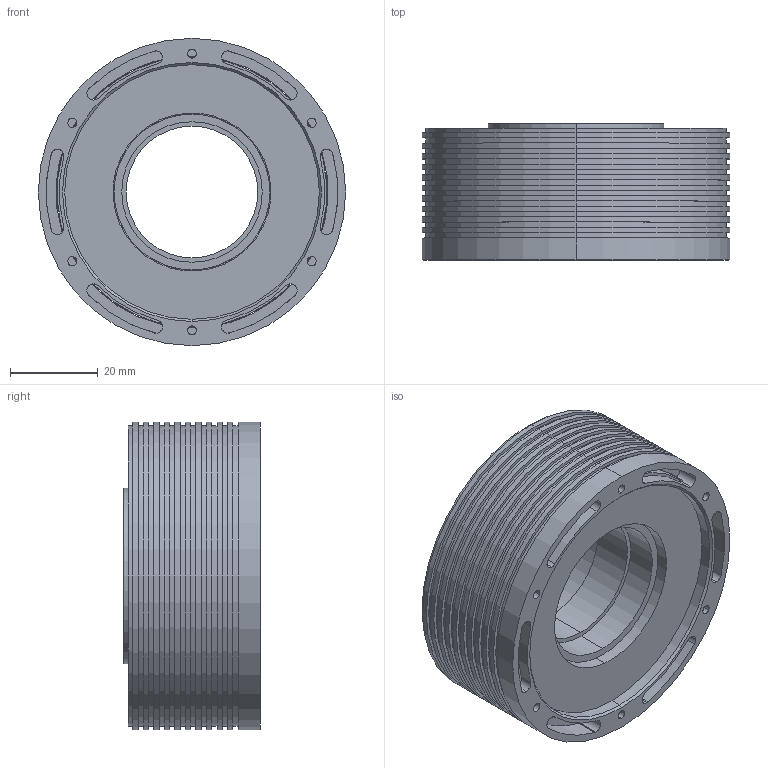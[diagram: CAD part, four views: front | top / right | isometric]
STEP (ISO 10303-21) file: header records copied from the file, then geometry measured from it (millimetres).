
FILE_DESCRIPTION (( 'STEP AP203' ), '1' );
FILE_NAME ('FLO7015.STEP', '2024-10-10T04:24:27', ( '' ), ( '' ), 'SwSTEP 2.0', 'SolidWorks 2020', '' );
FILE_SCHEMA (( 'CONFIG_CONTROL_DESIGN' ));
Length unit declared in the file: millimetre
Products named in the file (9): H70 嫩猾脯2_Default<偌樓馱>; FLO7015; H7015 棠俓_Default<偌樓馱>; MT-H7015-0002_Default<偌樓馱>; 沺郋7015_Default<偌樓馱>; 3D_70-H-ENCODER_2024-06-18_Default<偌樓馱>; H70 嫩猾脯1_Default<偌樓馱>; MT-H7015-0007_Default<偌樓馱>; MT-H7015-0003_Default<偌樓馱>
Assembly tree (34 placements, depth 2):
  FLO7015
    MT-H7015-0002_Default<偌樓馱>
    H70 嫩猾脯2_Default<偌樓馱>
    H70 嫩猾脯1_Default<偌樓馱>
    H7015 棠俓_Default<偌樓馱>  x26
    沺郋7015_Default<偌樓馱>
    MT-H7015-0007_Default<偌樓馱>  x2
    MT-H7015-0003_Default<偌樓馱>
    3D_70-H-ENCODER_2024-06-18_Default<偌樓馱>
Bounding box: 70 x 31 x 70 mm (x, y, z)
Volume: 54639.2 mm3; surface area: 67964.3 mm2
Topology: 33 solids, 151 shells, 1307 faces, 5176 edges, 4047 vertices
Faces by surface type: plane 732, cylinder 533, cone 30, bspline 9, torus 3
Entity records: 47854 total; most frequent: CARTESIAN_POINT 12936, DIRECTION 6396, ORIENTED_EDGE 6305, EDGE_CURVE 4236, VERTEX_POINT 3431, LINE 2478, VECTOR 2478, AXIS2_PLACEMENT_3D 1959
